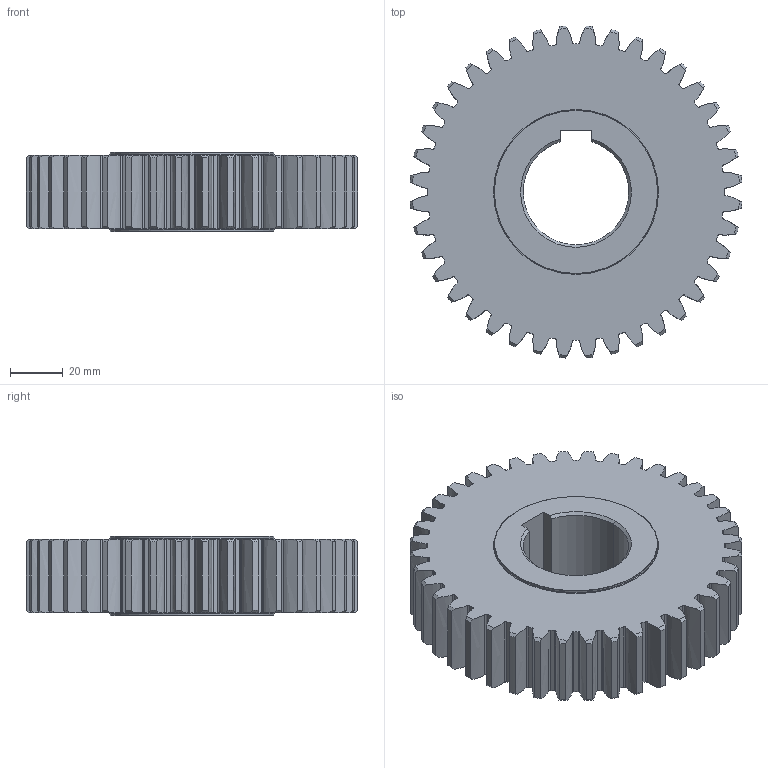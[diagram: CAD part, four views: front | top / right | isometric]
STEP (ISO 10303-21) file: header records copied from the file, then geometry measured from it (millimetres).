
FILE_DESCRIPTION (( 'STEP AP214' ), '1' );
FILE_NAME ('1SG__S030040S.STEP', '2021-08-04T06:05:31', ( '' ), ( '' ), 'SwSTEP 2.0', 'SolidWorks 2021', '' );
FILE_SCHEMA (( 'AUTOMOTIVE_DESIGN' ));
Length unit declared in the file: millimetre
Products named in the file (1): 1SG__S030040S
Bounding box: 125.77 x 125.77 x 30 mm (x, y, z)
Volume: 280901.1 mm3; surface area: 44980.6 mm2
Topology: 1 solids, 1 shells, 368 faces, 1080 edges, 716 vertices
Faces by surface type: cylinder 147, bspline 120, cone 90, plane 7, torus 4
Entity records: 23022 total; most frequent: CARTESIAN_POINT 13737, ORIENTED_EDGE 2160, DIRECTION 1726, EDGE_CURVE 1080, AXIS2_PLACEMENT_3D 721, VERTEX_POINT 716, CIRCLE 472, EDGE_LOOP 372
